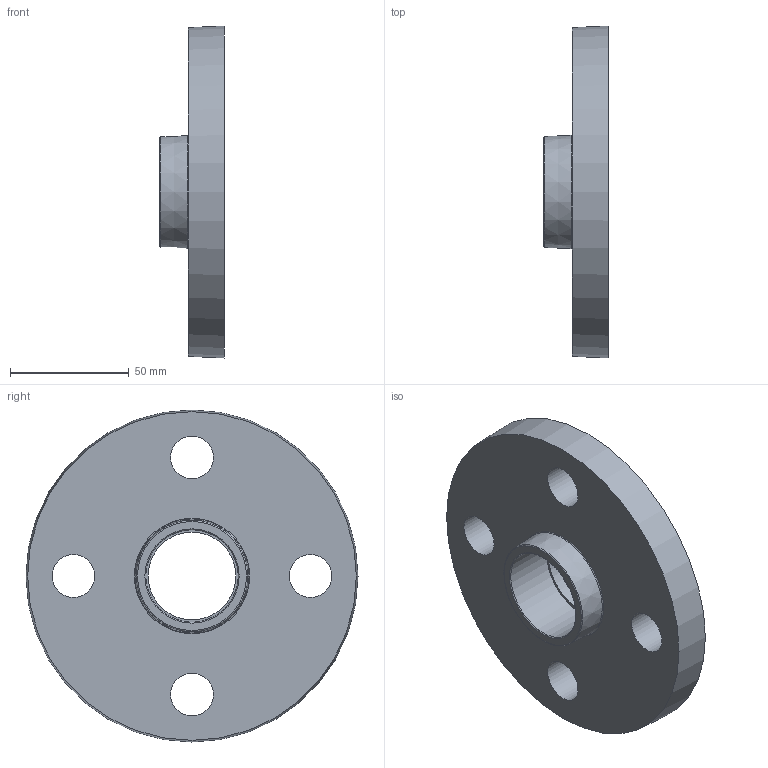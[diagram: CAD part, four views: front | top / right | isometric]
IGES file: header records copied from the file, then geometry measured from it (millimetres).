
Global section: file name: 059201013.ipt; native system: Autodesk Inventor 2015; preprocessor: unknown; author: KIM; date: 20171207.170011; units: millimetre
Bounding box: 27 x 140 x 140 mm (x, y, z)
Volume: 202746.4 mm3; surface area: 41375.4 mm2
Topology: 1 solids, 1 shells, 28 faces, 62 edges, 44 vertices
Faces by surface type: revolution 13, plane 10, cylinder 3, cone 2
Full cylindrical faces by diameter (mm): 39.183 x1, 41.983 x1, 44.783 x1
